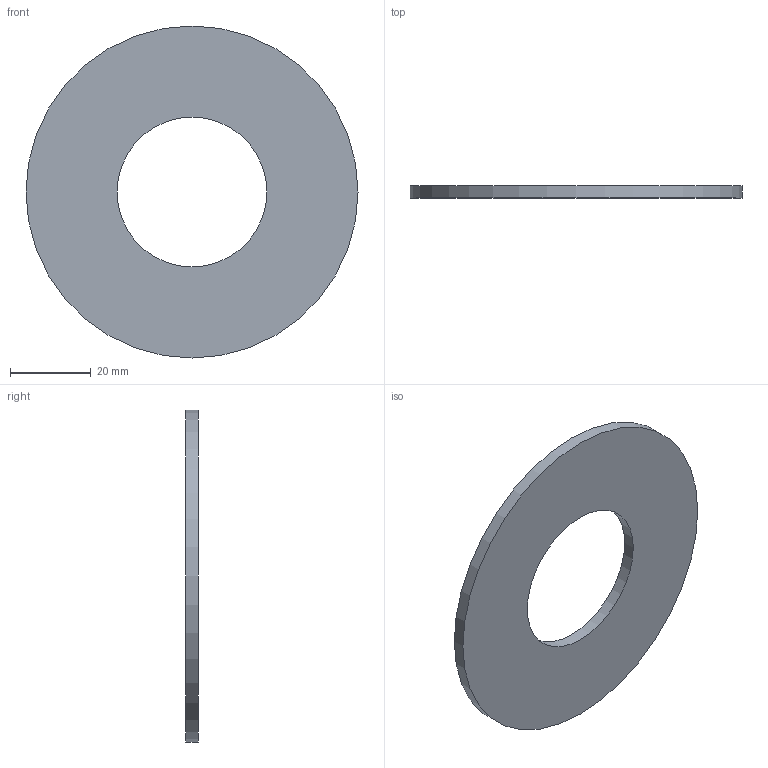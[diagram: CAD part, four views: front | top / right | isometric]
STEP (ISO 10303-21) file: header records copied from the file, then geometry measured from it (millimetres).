
FILE_DESCRIPTION(/* description */ ('Unknown'),/* implementation_level */ '2;1');
FILE_NAME(/* name */ 'GUA.040B',/* time_stamp */ '2021-04-01T10:42:56+02:00',/* author */ ('Unknown'),/* organization */ ('Unknown'),/* preprocessor_version */ 'ST-DEVELOPER v16.7',/* originating_system */ 'Solid Edge',/* authorisation */ 'Unknown');
FILE_SCHEMA (('AUTOMOTIVE_DESIGN {1 0 10303 214 3 1 1}'));
Length unit declared in the file: millimetre
Products named in the file (1): GUA.040B
Bounding box: 82 x 3 x 82 mm (x, y, z)
Volume: 12617.4 mm3; surface area: 9533.2 mm2
Topology: 1 solids, 1 shells, 4 faces, 6 edges, 4 vertices
Faces by surface type: cylinder 2, plane 2
Full cylindrical faces by diameter (mm): 37 x1, 82 x1
Entity records: 118 total; most frequent: DIRECTION 18, CARTESIAN_POINT 13, AXIS2_PLACEMENT_3D 9, ORIENTED_EDGE 8, EDGE_LOOP 8, FACE_BOUND 8, EDGE_CURVE 4, VERTEX_POINT 4
